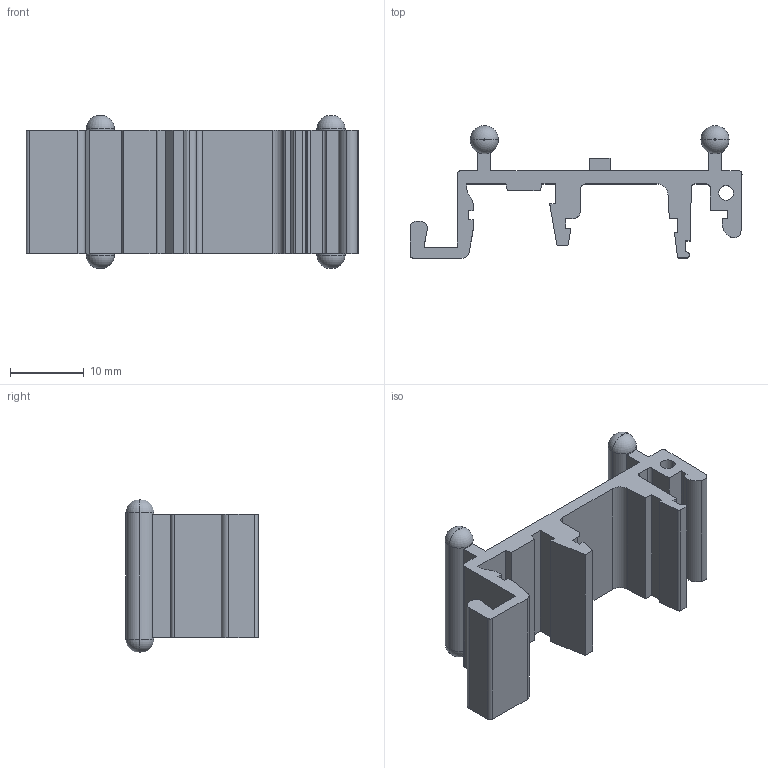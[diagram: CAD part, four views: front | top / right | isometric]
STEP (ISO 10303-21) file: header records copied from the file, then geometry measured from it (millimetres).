
FILE_DESCRIPTION (( 'STEP AP203' ), '1' );
FILE_NAME ('RT-043-4.STEP', '2024-12-03T13:47:04', ( '' ), ( '' ), 'SwSTEP 2.0', 'SolidWorks 2021', '' );
FILE_SCHEMA (( 'CONFIG_CONTROL_DESIGN' ));
Length unit declared in the file: millimetre
Products named in the file (1): RT-043-4
Bounding box: 44.89 x 17.91 x 20.7 mm (x, y, z)
Volume: 3516.6 mm3; surface area: 3946.5 mm2
Topology: 1 solids, 1 shells, 99 faces, 274 edges, 180 vertices
Faces by surface type: plane 65, cylinder 26, torus 8
Entity records: 3237 total; most frequent: CARTESIAN_POINT 554, ORIENTED_EDGE 548, DIRECTION 546, EDGE_CURVE 274, VECTOR 202, LINE 202, VERTEX_POINT 180, AXIS2_PLACEMENT_3D 172
